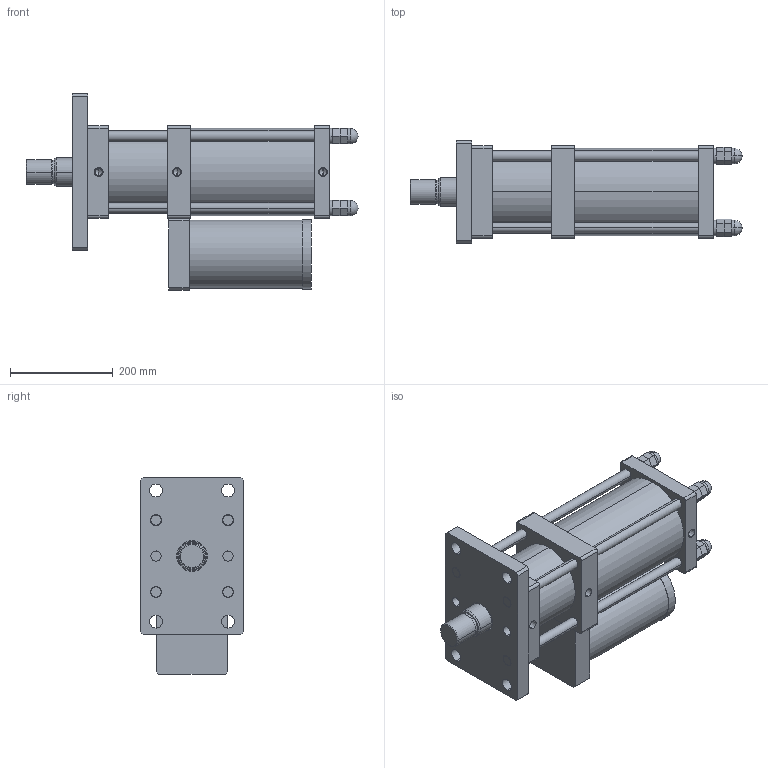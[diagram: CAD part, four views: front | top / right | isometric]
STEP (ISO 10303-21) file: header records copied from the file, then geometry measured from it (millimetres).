
FILE_DESCRIPTION (( 'STEP AP203' ), '1' );
FILE_NAME ('CPT-125-50-10-20T.STEP', '2016-03-12T01:40:43', ( 'WIN' ), ( '' ), 'SwSTEP 2.0', 'SolidWorks 2014', '' );
FILE_SCHEMA (( 'CONFIG_CONTROL_DESIGN' ));
Length unit declared in the file: millimetre
Products named in the file (1): CPT-125-50-10-20T
Bounding box: 646 x 200 x 382.5 mm (x, y, z)
Volume: 14893730.6 mm3; surface area: 1103163.5 mm2
Topology: 17 solids, 17 shells, 321 faces, 732 edges, 458 vertices
Faces by surface type: plane 155, cylinder 124, cone 30, sphere 8, torus 4
Entity records: 8969 total; most frequent: DIRECTION 1654, CARTESIAN_POINT 1480, ORIENTED_EDGE 1416, EDGE_CURVE 708, AXIS2_PLACEMENT_3D 624, VERTEX_POINT 450, LINE 406, VECTOR 406
